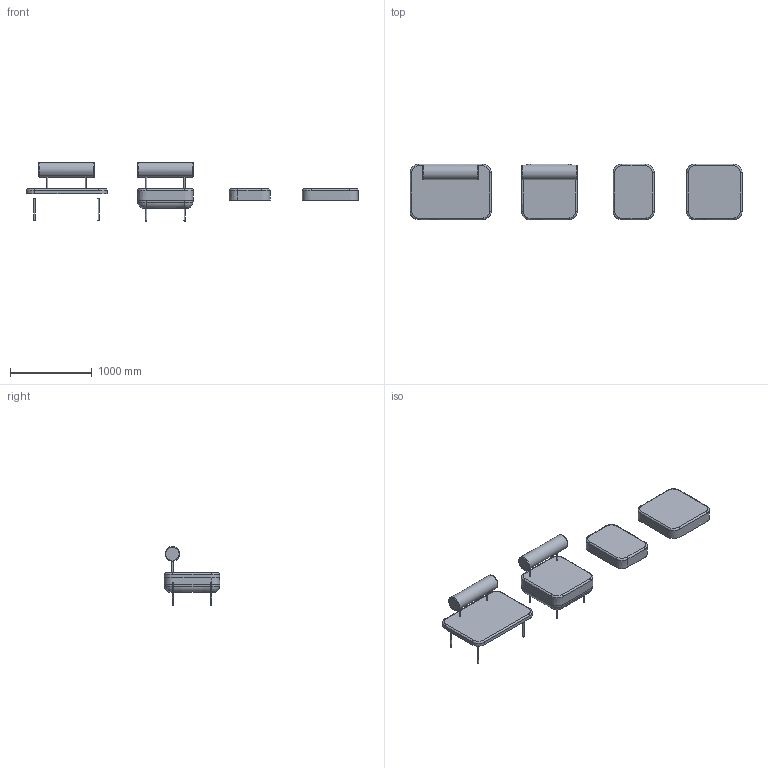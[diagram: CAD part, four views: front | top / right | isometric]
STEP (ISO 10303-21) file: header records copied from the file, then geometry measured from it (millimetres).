
FILE_DESCRIPTION (( 'STEP AP214' ), '1' );
FILE_NAME ('Hoff Chair Medium.STEP', '2024-11-14T12:54:13', ( '' ), ( '' ), 'SwSTEP 2.0', 'SolidWorks 2010', '' );
FILE_SCHEMA (( 'AUTOMOTIVE_DESIGN' ));
Products named in the file (1): Hoff Chair Medium
Bounding box: 4066.19 x 680 x 723 mm (x, y, z)
Surface area: 8399297.6 mm2 (no closed solid volume)
Topology: 0 solids, 75 shells, 234 faces, 523 edges, 369 vertices
Faces by surface type: bspline 100, plane 90, cylinder 28, cone 16
Full cylindrical faces by diameter (mm): 14 x6, 16 x18, 180 x2
Entity records: 34331 total; most frequent: CARTESIAN_POINT 30234, ORIENTED_EDGE 822, DIRECTION 521, EDGE_CURVE 461, VERTEX_POINT 349, EDGE_LOOP 290, B_SPLINE_CURVE_WITH_KNOTS 266, FACE_OUTER_BOUND 260
